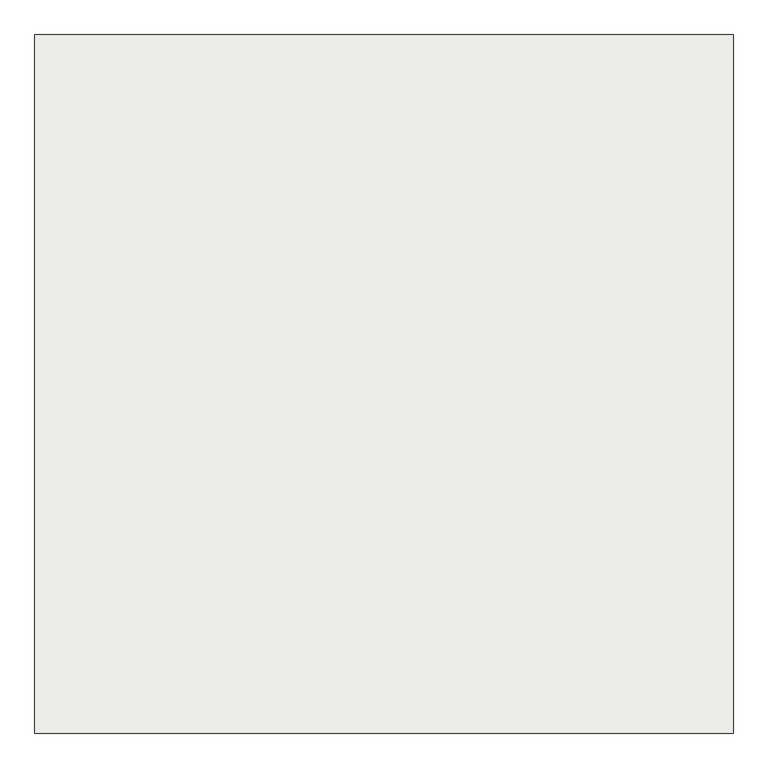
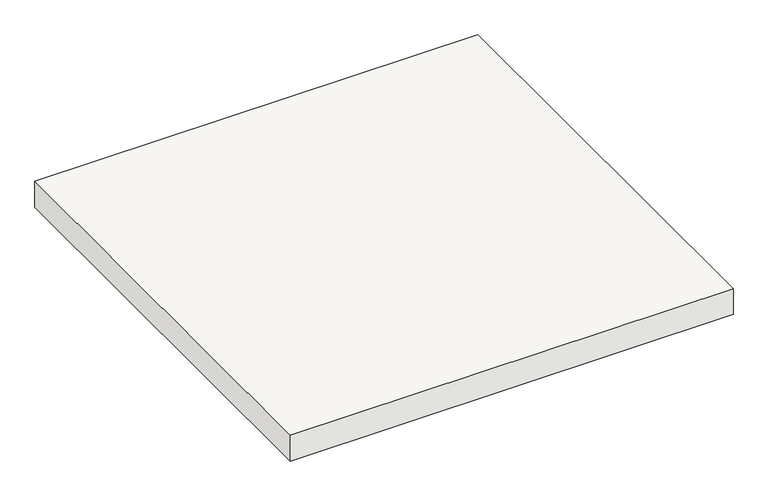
"""IFC4 building model written with IfcOpenShell, lengths in millimetres: roof geometry, Basic Roof:47_RO_dakpan_rood_300x300:69946 : Basic Roof:47_RO_dakpan_rood_300x300:69946."""

from ifc_helpers import new_model, si_unit, origin, origin_with_axes, place, context, project, spatial, polyline, outline, extrude, source, transform, mapped, element, save


def roof_65e7706b(model_context):
    return source(origin(), model_context, "Body", "SweptSolid", [
        extrude(outline(polyline([(38693.347385, -9415.0), (37193.347385, -9415.0), (37193.347385, -7915.0), (38693.347385, -7915.0), (38693.347385, -9415.0)])), origin_with_axes(), (0.0, 0.0, 1.0), 92.0),
    ])


if __name__ == "__main__":
    model = new_model("IFC4")
    model_context = context("Model", 3, world=origin())
    ifc_project = project(units=[si_unit("LENGTHUNIT", "METRE", prefix="MILLI")], contexts=[model_context])
    site = spatial("IfcSite", under=ifc_project)
    building = spatial("IfcBuilding", under=site)
    placement = place(None, origin())
    roof_shape = roof_65e7706b(model_context)
    element("IfcRoof", 1, ObjectType="Basic Roof:47_RO_dakpan_rood_300x300:69946 : Basic Roof:47_RO_dakpan_rood_300x300:69946", at=placement, inside=building, context=model_context, shape_type="MappedRepresentation", body=[
        mapped(roof_shape, transform((0.0, 0.0, 0.0), x_axis=(1.0, 0.0, 0.0), y_axis=(0.0, 1.0, 0.0), z_axis=(0.0, 0.0, 1.0))),
    ])
    save(model, "model.ifc")
